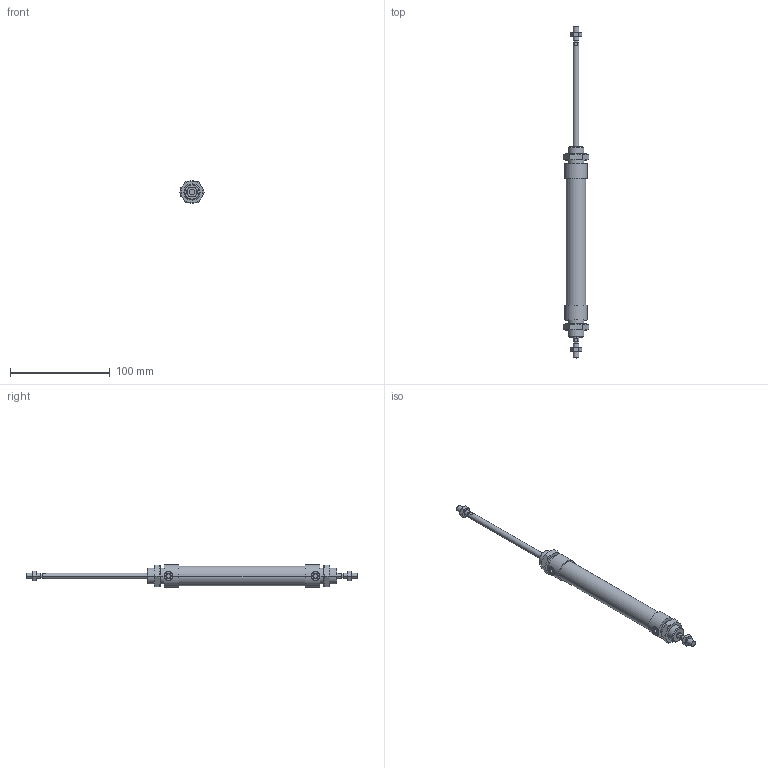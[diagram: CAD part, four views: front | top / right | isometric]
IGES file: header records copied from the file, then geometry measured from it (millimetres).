
Global section: file name: No Iges File Name specified; native system: AutoDesk Inventor R10; preprocessor: AutoDesk Inventor Iges Exporter R10; author: No Author specified; organization: No Organization specified; date: 20060105.143349; units: millimetre
Bounding box: 25.4 x 332 x 23 mm (x, y, z)
Volume: 66088.1 mm3; surface area: 25738.1 mm2
Topology: 6 solids, 6 shells, 184 faces, 394 edges, 230 vertices
Faces by surface type: cone 68, plane 58, cylinder 24, bspline 20, revolution 14
